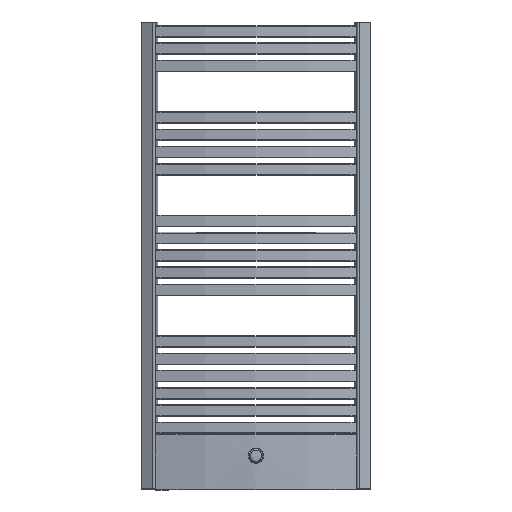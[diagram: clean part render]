
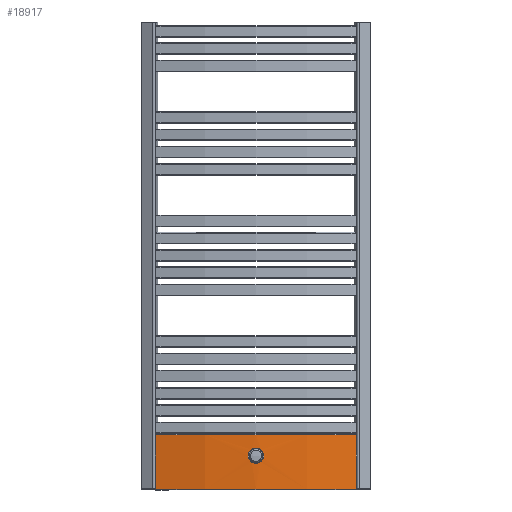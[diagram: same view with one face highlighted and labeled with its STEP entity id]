
A CAD part, front view. The second image highlights one B-rep face of the part: STEP entity #18917.
In plain terms, the highlighted cylindrical face has radius 965.647 mm (diameter 1931.29 mm), a partial arc.
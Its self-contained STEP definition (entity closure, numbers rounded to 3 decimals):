
#16449=CARTESIAN_POINT('',(261.831,-30.918,142.));
#16450=VERTEX_POINT('',#16449);
#16907=CARTESIAN_POINT('',(-261.831,-30.918,142.));
#16908=VERTEX_POINT('',#16907);
#16926=CARTESIAN_POINT('',(-261.831,-30.918,0.));
#16927=VERTEX_POINT('',#16926);
#16935=CARTESIAN_POINT('',(-261.831,-30.918,0.));
#16936=DIRECTION('',(0.0,0.0,1.0));
#16937=VECTOR('',#16936,142.0);
#16938=LINE('',#16935,#16937);
#16939=EDGE_CURVE('',#16927,#16908,#16938,.T.);
#16950=CARTESIAN_POINT('',(261.831,-30.918,0.));
#16951=VERTEX_POINT('',#16950);
#16952=CARTESIAN_POINT('',(261.831,-30.918,0.));
#16953=DIRECTION('',(0.0,0.0,1.0));
#16954=VECTOR('',#16953,142.0);
#16955=LINE('',#16952,#16954);
#16956=EDGE_CURVE('',#16951,#16450,#16955,.T.);
#17104=CARTESIAN_POINT('',(0.,898.555,142.));
#17105=DIRECTION('',(0.,0.,1.0));
#17106=DIRECTION('',(0.,-1.0,0.));
#17107=AXIS2_PLACEMENT_3D('',#17104,#17105,#17106);
#17108=CIRCLE('',#17107,965.647);
#17109=EDGE_CURVE('',#16908,#16450,#17108,.T.);
#17222=CARTESIAN_POINT('',(0.,898.555,0.));
#17223=DIRECTION('',(0.,0.,-1.0));
#17224=DIRECTION('',(0.,-1.0,0.));
#17225=AXIS2_PLACEMENT_3D('',#17222,#17223,#17224);
#17226=CIRCLE('',#17225,965.647);
#17227=EDGE_CURVE('',#16951,#16927,#17226,.T.);
#18833=CARTESIAN_POINT('',(0.,898.555,0.));
#18834=DIRECTION('',(0.,0.,1.0));
#18835=DIRECTION('',(0.271,-0.963,0.));
#18836=AXIS2_PLACEMENT_3D('',#18833,#18834,#18835);
#18837=CYLINDRICAL_SURFACE('',#18836,965.647);
#18838=ORIENTED_EDGE('',*,*,#17227,.F.);
#18839=ORIENTED_EDGE('',*,*,#16956,.T.);
#18840=ORIENTED_EDGE('',*,*,#17109,.F.);
#18841=ORIENTED_EDGE('',*,*,#16939,.F.);
#18842=EDGE_LOOP('',(#18838,#18839,#18840,#18841));
#18843=FACE_OUTER_BOUND('',#18842,.T.);
#18844=CARTESIAN_POINT('',(20.,-66.885,87.5));
#18845=VERTEX_POINT('',#18844);
#18846=CARTESIAN_POINT('',(20.,-66.885,87.5));
#18847=CARTESIAN_POINT('',(20.,-66.885,86.244));
#18848=CARTESIAN_POINT('',(19.88,-66.888,84.946));
#18849=CARTESIAN_POINT('',(19.374,-66.898,82.363));
#18850=CARTESIAN_POINT('',(18.988,-66.906,81.078));
#18851=CARTESIAN_POINT('',(17.967,-66.925,78.614));
#18852=CARTESIAN_POINT('',(17.332,-66.937,77.433));
#18853=CARTESIAN_POINT('',(15.863,-66.962,75.249));
#18854=CARTESIAN_POINT('',(15.03,-66.976,74.246));
#18855=CARTESIAN_POINT('',(13.254,-67.002,72.47));
#18856=CARTESIAN_POINT('',(12.251,-67.015,71.637));
#18857=CARTESIAN_POINT('',(10.067,-67.04,70.168));
#18858=CARTESIAN_POINT('',(8.886,-67.052,69.533));
#18859=CARTESIAN_POINT('',(6.422,-67.072,68.512));
#18860=CARTESIAN_POINT('',(5.137,-67.079,68.126));
#18861=CARTESIAN_POINT('',(2.554,-67.09,67.62));
#18862=CARTESIAN_POINT('',(1.256,-67.092,67.5));
#18863=CARTESIAN_POINT('',(-1.256,-67.092,67.5));
#18864=CARTESIAN_POINT('',(-2.554,-67.09,67.62));
#18865=CARTESIAN_POINT('',(-5.137,-67.079,68.126));
#18866=CARTESIAN_POINT('',(-6.422,-67.072,68.512));
#18867=CARTESIAN_POINT('',(-8.886,-67.052,69.533));
#18868=CARTESIAN_POINT('',(-10.067,-67.04,70.168));
#18869=CARTESIAN_POINT('',(-12.251,-67.015,71.637));
#18870=CARTESIAN_POINT('',(-13.254,-67.002,72.47));
#18871=CARTESIAN_POINT('',(-15.03,-66.976,74.246));
#18872=CARTESIAN_POINT('',(-15.863,-66.962,75.249));
#18873=CARTESIAN_POINT('',(-17.332,-66.937,77.433));
#18874=CARTESIAN_POINT('',(-17.967,-66.925,78.614));
#18875=CARTESIAN_POINT('',(-18.988,-66.906,81.078));
#18876=CARTESIAN_POINT('',(-19.374,-66.898,82.363));
#18877=CARTESIAN_POINT('',(-19.88,-66.888,84.946));
#18878=CARTESIAN_POINT('',(-20.,-66.885,86.244));
#18879=CARTESIAN_POINT('',(-20.,-66.885,88.756));
#18880=CARTESIAN_POINT('',(-19.88,-66.888,90.054));
#18881=CARTESIAN_POINT('',(-19.374,-66.898,92.637));
#18882=CARTESIAN_POINT('',(-18.988,-66.906,93.922));
#18883=CARTESIAN_POINT('',(-17.967,-66.925,96.386));
#18884=CARTESIAN_POINT('',(-17.332,-66.937,97.567));
#18885=CARTESIAN_POINT('',(-15.863,-66.962,99.751));
#18886=CARTESIAN_POINT('',(-15.03,-66.976,100.754));
#18887=CARTESIAN_POINT('',(-13.254,-67.002,102.53));
#18888=CARTESIAN_POINT('',(-12.251,-67.015,103.363));
#18889=CARTESIAN_POINT('',(-10.067,-67.04,104.832));
#18890=CARTESIAN_POINT('',(-8.886,-67.052,105.467));
#18891=CARTESIAN_POINT('',(-6.422,-67.072,106.488));
#18892=CARTESIAN_POINT('',(-5.137,-67.079,106.874));
#18893=CARTESIAN_POINT('',(-2.554,-67.09,107.38));
#18894=CARTESIAN_POINT('',(-1.256,-67.092,107.5));
#18895=CARTESIAN_POINT('',(1.256,-67.092,107.5));
#18896=CARTESIAN_POINT('',(2.554,-67.09,107.38));
#18897=CARTESIAN_POINT('',(5.137,-67.079,106.874));
#18898=CARTESIAN_POINT('',(6.422,-67.072,106.488));
#18899=CARTESIAN_POINT('',(8.886,-67.052,105.467));
#18900=CARTESIAN_POINT('',(10.067,-67.04,104.832));
#18901=CARTESIAN_POINT('',(12.251,-67.015,103.363));
#18902=CARTESIAN_POINT('',(13.254,-67.002,102.53));
#18903=CARTESIAN_POINT('',(15.03,-66.976,100.754));
#18904=CARTESIAN_POINT('',(15.863,-66.962,99.751));
#18905=CARTESIAN_POINT('',(17.332,-66.937,97.567));
#18906=CARTESIAN_POINT('',(17.967,-66.925,96.386));
#18907=CARTESIAN_POINT('',(18.988,-66.906,93.922));
#18908=CARTESIAN_POINT('',(19.374,-66.898,92.637));
#18909=CARTESIAN_POINT('',(19.88,-66.888,90.054));
#18910=CARTESIAN_POINT('',(20.,-66.885,88.756));
#18911=CARTESIAN_POINT('',(20.,-66.885,87.5));
#18912=B_SPLINE_CURVE_WITH_KNOTS('',3,(#18846,#18847,#18848,#18849,#18850,#18851,#18852,#18853,#18854,#18855,#18856,#18857,#18858,#18859,#18860,#18861,#18862,#18863,#18864,#18865,#18866,#18867,#18868,#18869,#18870,#18871,#18872,#18873,#18874,#18875,#18876,#18877,#18878,#18879,#18880,#18881,#18882,#18883,#18884,#18885,#18886,#18887,#18888,#18889,#18890,#18891,#18892,#18893,#18894,#18895,#18896,#18897,#18898,#18899,#18900,#18901,#18902,#18903,#18904,#18905,#18906,#18907,#18908,#18909,#18910,#18911),.UNSPECIFIED.,.T.,.U.,(4,2,2,2,2,2,2,2,2,2,2,2,2,2,2,2,2,2,2,2,2,2,2,2,2,2,2,2,2,2,2,2,4),(0.0,0.377,0.753,1.13,1.507,1.883,2.26,2.637,3.014,3.39,3.767,4.144,4.52,4.897,5.274,5.65,6.027,6.404,6.781,7.157,7.534,7.911,8.287,8.664,9.041,9.417,9.794,10.171,10.548,10.924,11.301,11.678,12.054),.UNSPECIFIED.);
#18913=EDGE_CURVE('',#18845,#18845,#18912,.T.);
#18914=ORIENTED_EDGE('',*,*,#18913,.T.);
#18915=EDGE_LOOP('',(#18914));
#18916=FACE_BOUND('',#18915,.T.);
#18917=ADVANCED_FACE('',(#18843,#18916),#18837,.T.);
